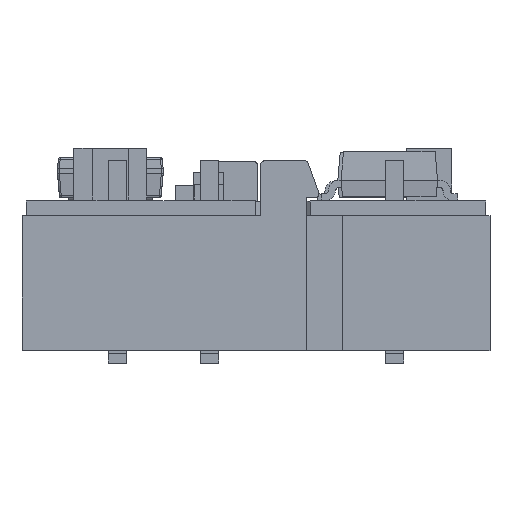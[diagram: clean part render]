
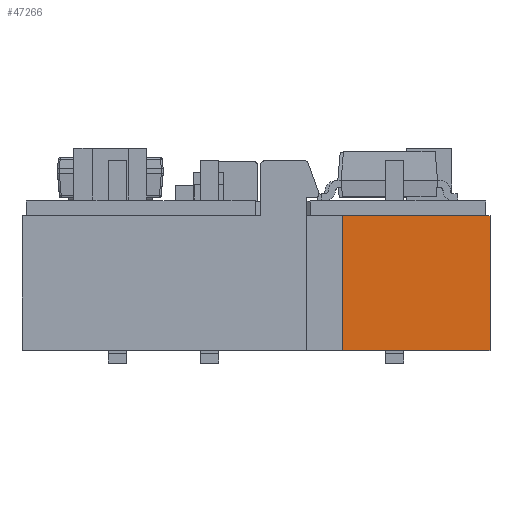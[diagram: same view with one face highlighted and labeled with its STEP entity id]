
A CAD part, top view. The second image highlights one B-rep face of the part: STEP entity #47266.
In plain terms, the highlighted planar face has unit normal (0, 0, 1).
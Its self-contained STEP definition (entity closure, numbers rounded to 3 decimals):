
#43033 = PLANE('',#43034);
#43034 = AXIS2_PLACEMENT_3D('',#43035,#43036,#43037);
#43035 = CARTESIAN_POINT('',(-6.425,0.,0.));
#43036 = DIRECTION('',(0.,-1.,0.));
#43037 = DIRECTION('',(1.,0.,0.));
#43089 = PLANE('',#43090);
#43090 = AXIS2_PLACEMENT_3D('',#43091,#43092,#43093);
#43091 = CARTESIAN_POINT('',(6.425,3.7,0.));
#43092 = DIRECTION('',(0.,1.,0.));
#43093 = DIRECTION('',(-1.,0.,0.));
#44872 = PLANE('',#44873);
#44873 = AXIS2_PLACEMENT_3D('',#44874,#44875,#44876);
#44874 = CARTESIAN_POINT('',(6.425,0.,0.));
#44875 = DIRECTION('',(1.,0.,0.));
#44876 = DIRECTION('',(-0.,1.,0.));
#45911 = VERTEX_POINT('',#45912);
#45912 = CARTESIAN_POINT('',(6.425,0.,5.4));
#45933 = EDGE_CURVE('',#45934,#45911,#45936,.T.);
#45934 = VERTEX_POINT('',#45935);
#45935 = CARTESIAN_POINT('',(2.38,0.,5.4));
#45936 = SURFACE_CURVE('',#45937,(#45941,#45948),.PCURVE_S1.);
#45937 = LINE('',#45938,#45939);
#45938 = CARTESIAN_POINT('',(6.425,0.,5.4));
#45939 = VECTOR('',#45940,1.);
#45940 = DIRECTION('',(1.,0.,0.));
#45941 = PCURVE('',#43033,#45942);
#45942 = DEFINITIONAL_REPRESENTATION('',(#45943),#45947);
#45943 = LINE('',#45944,#45945);
#45944 = CARTESIAN_POINT('',(12.85,5.4));
#45945 = VECTOR('',#45946,1.);
#45946 = DIRECTION('',(1.,0.));
#45947 = ( GEOMETRIC_REPRESENTATION_CONTEXT(2) 
PARAMETRIC_REPRESENTATION_CONTEXT() REPRESENTATION_CONTEXT('2D SPACE',''
  ) );
#45948 = PCURVE('',#45949,#45954);
#45949 = PLANE('',#45950);
#45950 = AXIS2_PLACEMENT_3D('',#45951,#45952,#45953);
#45951 = CARTESIAN_POINT('',(0.,1.85,5.4));
#45952 = DIRECTION('',(0.,0.,1.));
#45953 = DIRECTION('',(1.,0.,-0.));
#45954 = DEFINITIONAL_REPRESENTATION('',(#45955),#45959);
#45955 = LINE('',#45956,#45957);
#45956 = CARTESIAN_POINT('',(6.425,-1.85));
#45957 = VECTOR('',#45958,1.);
#45958 = DIRECTION('',(1.,0.));
#45959 = ( GEOMETRIC_REPRESENTATION_CONTEXT(2) 
PARAMETRIC_REPRESENTATION_CONTEXT() REPRESENTATION_CONTEXT('2D SPACE',''
  ) );
#45977 = PLANE('',#45978);
#45978 = AXIS2_PLACEMENT_3D('',#45979,#45980,#45981);
#45979 = CARTESIAN_POINT('',(2.38,3.7,4.8));
#45980 = DIRECTION('',(1.,0.,0.));
#45981 = DIRECTION('',(0.,0.,1.));
#46766 = VERTEX_POINT('',#46767);
#46767 = CARTESIAN_POINT('',(6.425,3.7,5.4));
#46788 = EDGE_CURVE('',#45911,#46766,#46789,.T.);
#46789 = SURFACE_CURVE('',#46790,(#46794,#46801),.PCURVE_S1.);
#46790 = LINE('',#46791,#46792);
#46791 = CARTESIAN_POINT('',(6.425,3.7,5.4));
#46792 = VECTOR('',#46793,1.);
#46793 = DIRECTION('',(0.,1.,0.));
#46794 = PCURVE('',#44872,#46795);
#46795 = DEFINITIONAL_REPRESENTATION('',(#46796),#46800);
#46796 = LINE('',#46797,#46798);
#46797 = CARTESIAN_POINT('',(3.7,5.4));
#46798 = VECTOR('',#46799,1.);
#46799 = DIRECTION('',(1.,0.));
#46800 = ( GEOMETRIC_REPRESENTATION_CONTEXT(2) 
PARAMETRIC_REPRESENTATION_CONTEXT() REPRESENTATION_CONTEXT('2D SPACE',''
  ) );
#46801 = PCURVE('',#45949,#46802);
#46802 = DEFINITIONAL_REPRESENTATION('',(#46803),#46807);
#46803 = LINE('',#46804,#46805);
#46804 = CARTESIAN_POINT('',(6.425,1.85));
#46805 = VECTOR('',#46806,1.);
#46806 = DIRECTION('',(0.,1.));
#46807 = ( GEOMETRIC_REPRESENTATION_CONTEXT(2) 
PARAMETRIC_REPRESENTATION_CONTEXT() REPRESENTATION_CONTEXT('2D SPACE',''
  ) );
#47077 = EDGE_CURVE('',#47078,#45934,#47080,.T.);
#47078 = VERTEX_POINT('',#47079);
#47079 = CARTESIAN_POINT('',(2.38,3.7,5.4));
#47080 = SURFACE_CURVE('',#47081,(#47085,#47092),.PCURVE_S1.);
#47081 = LINE('',#47082,#47083);
#47082 = CARTESIAN_POINT('',(2.38,2.775,5.4));
#47083 = VECTOR('',#47084,1.);
#47084 = DIRECTION('',(0.,-1.,0.));
#47085 = PCURVE('',#45977,#47086);
#47086 = DEFINITIONAL_REPRESENTATION('',(#47087),#47091);
#47087 = LINE('',#47088,#47089);
#47088 = CARTESIAN_POINT('',(0.6,0.925));
#47089 = VECTOR('',#47090,1.);
#47090 = DIRECTION('',(0.,1.));
#47091 = ( GEOMETRIC_REPRESENTATION_CONTEXT(2) 
PARAMETRIC_REPRESENTATION_CONTEXT() REPRESENTATION_CONTEXT('2D SPACE',''
  ) );
#47092 = PCURVE('',#45949,#47093);
#47093 = DEFINITIONAL_REPRESENTATION('',(#47094),#47098);
#47094 = LINE('',#47095,#47096);
#47095 = CARTESIAN_POINT('',(2.38,0.925));
#47096 = VECTOR('',#47097,1.);
#47097 = DIRECTION('',(0.,-1.));
#47098 = ( GEOMETRIC_REPRESENTATION_CONTEXT(2) 
PARAMETRIC_REPRESENTATION_CONTEXT() REPRESENTATION_CONTEXT('2D SPACE',''
  ) );
#47266 = ADVANCED_FACE('',(#47267),#45949,.T.);
#47267 = FACE_BOUND('',#47268,.T.);
#47268 = EDGE_LOOP('',(#47269,#47270,#47271,#47272));
#47269 = ORIENTED_EDGE('',*,*,#47077,.T.);
#47270 = ORIENTED_EDGE('',*,*,#45933,.T.);
#47271 = ORIENTED_EDGE('',*,*,#46788,.T.);
#47272 = ORIENTED_EDGE('',*,*,#47273,.T.);
#47273 = EDGE_CURVE('',#46766,#47078,#47274,.T.);
#47274 = SURFACE_CURVE('',#47275,(#47279,#47286),.PCURVE_S1.);
#47275 = LINE('',#47276,#47277);
#47276 = CARTESIAN_POINT('',(-6.425,3.7,5.4));
#47277 = VECTOR('',#47278,1.);
#47278 = DIRECTION('',(-1.,0.,0.));
#47279 = PCURVE('',#45949,#47280);
#47280 = DEFINITIONAL_REPRESENTATION('',(#47281),#47285);
#47281 = LINE('',#47282,#47283);
#47282 = CARTESIAN_POINT('',(-6.425,1.85));
#47283 = VECTOR('',#47284,1.);
#47284 = DIRECTION('',(-1.,0.));
#47285 = ( GEOMETRIC_REPRESENTATION_CONTEXT(2) 
PARAMETRIC_REPRESENTATION_CONTEXT() REPRESENTATION_CONTEXT('2D SPACE',''
  ) );
#47286 = PCURVE('',#43089,#47287);
#47287 = DEFINITIONAL_REPRESENTATION('',(#47288),#47292);
#47288 = LINE('',#47289,#47290);
#47289 = CARTESIAN_POINT('',(12.85,5.4));
#47290 = VECTOR('',#47291,1.);
#47291 = DIRECTION('',(1.,0.));
#47292 = ( GEOMETRIC_REPRESENTATION_CONTEXT(2) 
PARAMETRIC_REPRESENTATION_CONTEXT() REPRESENTATION_CONTEXT('2D SPACE',''
  ) );
